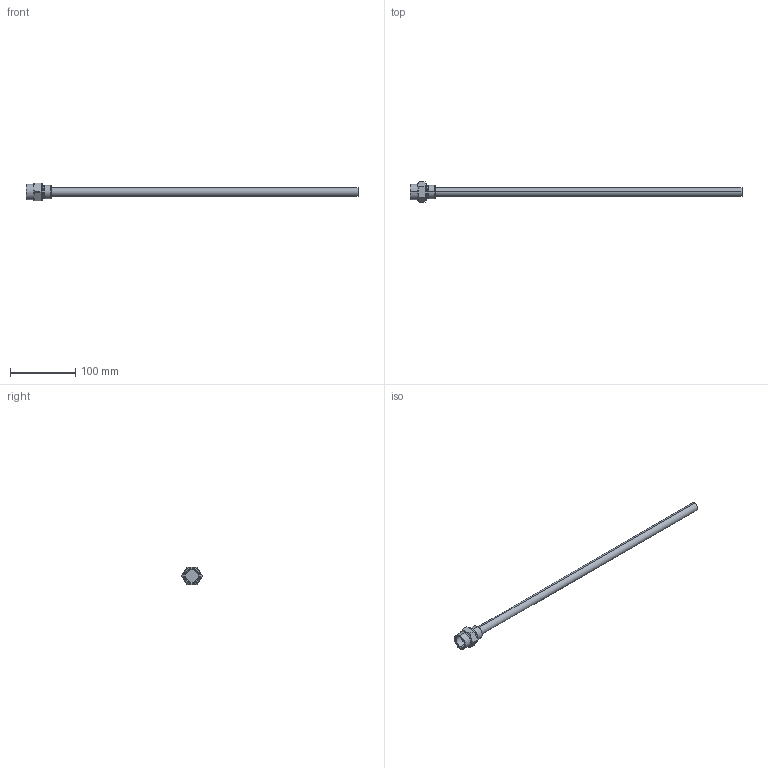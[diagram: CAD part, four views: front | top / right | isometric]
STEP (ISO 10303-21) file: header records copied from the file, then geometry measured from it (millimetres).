
FILE_DESCRIPTION( ( '' ), '1' );
FILE_NAME( '//partserver001.servicenet/client_exchange/iodir/jobs/output/wkb13391372_no0/STEP/e35050_2_03.stp', '2008-12-05T08:26:18', ( '' ), ( '' ), ' ', ' ', ' ' );
FILE_SCHEMA( ( 'CONFIG_CONTROL_DESIGN' ) );
Length unit declared in the file: millimetre
Products named in the file (1): 1
Bounding box: 507 x 31.18 x 27 mm (x, y, z)
Volume: 76679.1 mm3; surface area: 24006.8 mm2
Topology: 1 solids, 1 shells, 47 faces, 105 edges, 63 vertices
Faces by surface type: cylinder 18, plane 17, cone 8, torus 4
Entity records: 1340 total; most frequent: DIRECTION 246, CARTESIAN_POINT 232, ORIENTED_EDGE 210, EDGE_CURVE 105, AXIS2_PLACEMENT_3D 101, VERTEX_POINT 63, CIRCLE 53, EDGE_LOOP 50
